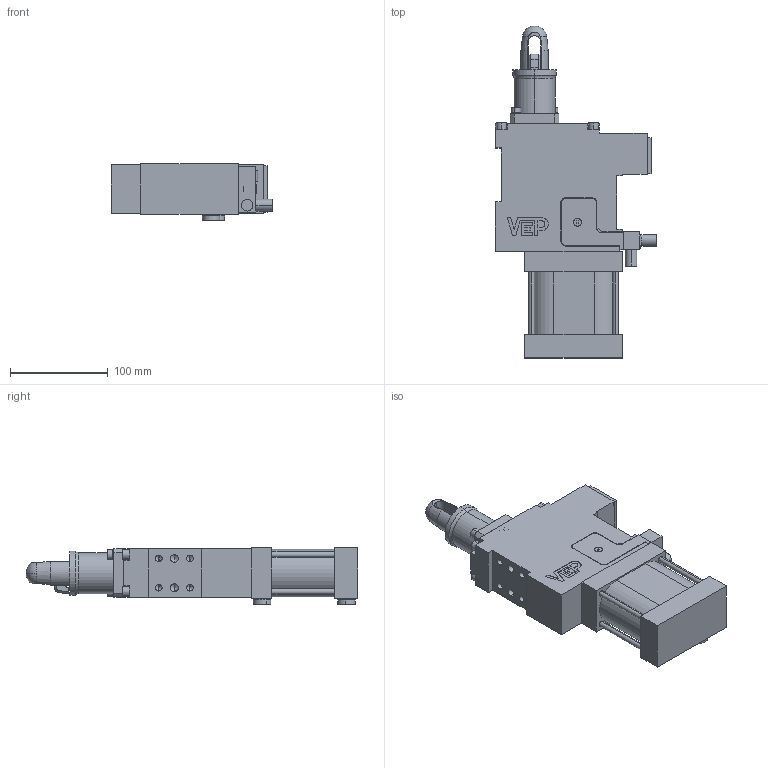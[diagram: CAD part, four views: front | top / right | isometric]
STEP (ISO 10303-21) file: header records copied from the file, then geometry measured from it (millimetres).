
FILE_DESCRIPTION (( 'STEP AP214' ), '1' );
FILE_NAME ('dca63ldvi_00000xxx.STEP', '2024-11-14T07:26:44', ( '' ), ( '' ), 'SwSTEP 2.0', 'SolidWorks 2024', '' );
FILE_SCHEMA (( 'AUTOMOTIVE_DESIGN' ));
Length unit declared in the file: millimetre
Products named in the file (11): Tassello_Ø30x55_dca63v; blocchetto_p&f_0; rondella tappo G1_4; vite_tcei_m6x18_din912_1_371; dca63ldvi_00000xxx; riparo_fc_dca63v; tappo cil G1_4 din908; Gancio_B_dca63vl_00000_01; gruppo_montante_dca63lc_d_v; Perno(z)_Ø28x110_dca63v_09775; rondella_schnorr_m6_1_248
Assembly tree (14 placements, depth 2):
  dca63ldvi_00000xxx
    gruppo_montante_dca63lc_d_v
    riparo_fc_dca63v
    blocchetto_p&f_0
    rondella tappo G1_4  x2
    tappo cil G1_4 din908  x2
    Gancio_B_dca63vl_00000_01
    Perno(z)_Ø28x110_dca63v_09775
    Tassello_Ø30x55_dca63v
    vite_tcei_m6x18_din912_1_371  x2
    rondella_schnorr_m6_1_248  x2
Bounding box: 165 x 340.15 x 58 mm (x, y, z)
Volume: 1323617.4 mm3; surface area: 201051.4 mm2
Topology: 14 solids, 14 shells, 694 faces, 1781 edges, 1124 vertices
Faces by surface type: plane 376, cylinder 200, cone 89, torus 16, bspline 13
Entity records: 21169 total; most frequent: CARTESIAN_POINT 4610, DIRECTION 3243, ORIENTED_EDGE 3234, EDGE_CURVE 1617, LINE 1081, AXIS2_PLACEMENT_3D 1081, VECTOR 1081, VERTEX_POINT 1049
